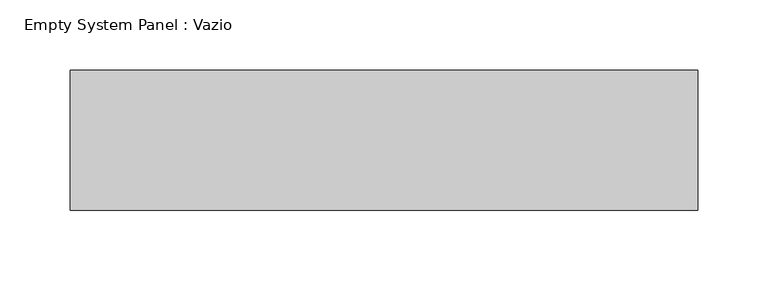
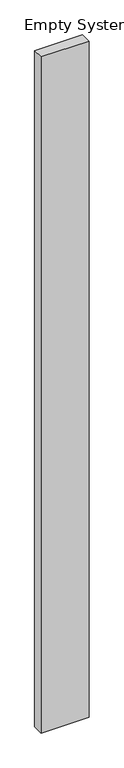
"""IFC4 building model written with IfcOpenShell, lengths in millimetres: plate geometry, Empty System Panel : Vazio."""

from ifc_helpers import new_model, si_unit, origin, origin_with_axes, place, context, project, spatial, polyline, outline, extrude, source, transform, mapped, element, save


def empty_system_panel_vazio_c31b6ba7(model_context):
    return source(origin(), model_context, "Body", "SweptSolid", [
        extrude(outline(polyline([(224.0556535, 50.0), (-224.0556535, 50.0), (-224.0556535, 150.0), (224.0556535, 150.0), (224.0556535, 50.0)])), origin_with_axes(), (0.0, 0.0, 1.0), 6670.0082767),
    ])


if __name__ == "__main__":
    model = new_model("IFC4")
    model_context = context("Model", 3, world=origin())
    ifc_project = project(units=[si_unit("LENGTHUNIT", "METRE", prefix="MILLI")], contexts=[model_context])
    site = spatial("IfcSite", under=ifc_project)
    building = spatial("IfcBuilding", under=site)
    placement = place(None, origin())
    empty_system_panel_vazio_shape = empty_system_panel_vazio_c31b6ba7(model_context)
    element("IfcPlate", 1, ObjectType="Empty System Panel : Vazio", at=placement, inside=building, context=model_context, shape_type="MappedRepresentation", body=[
        mapped(empty_system_panel_vazio_shape, transform((0.0, 0.0, 0.0), x_axis=(1.0, 0.0, 0.0), y_axis=(0.0, 1.0, 0.0), z_axis=(0.0, 0.0, 1.0))),
    ])
    save(model, "model.ifc")
